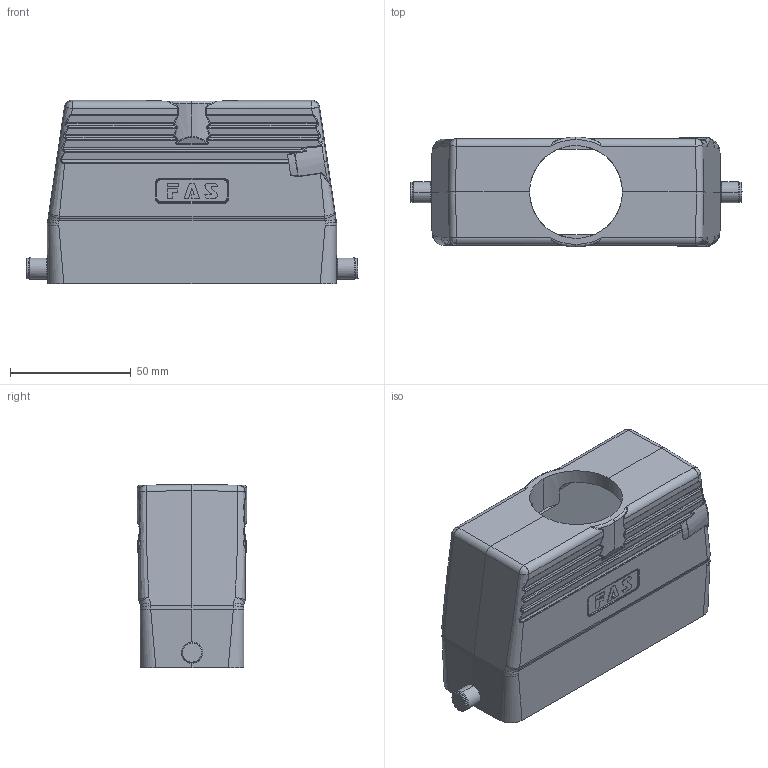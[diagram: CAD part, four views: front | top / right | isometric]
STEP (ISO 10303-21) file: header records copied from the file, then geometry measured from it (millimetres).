
FILE_DESCRIPTION (( 'STEP AP203' ), '1' );
FILE_NAME ('H24B-TGH-RO-M25&M32&M40.STEP', '2021-01-18T05:59:17', ( '' ), ( '' ), 'SwSTEP 2.0', 'SolidWorks 2016', '' );
FILE_SCHEMA (( 'CONFIG_CONTROL_DESIGN' ));
Length unit declared in the file: millimetre
Products named in the file (3): H24B-TGH-RO-M40; H24B-TGH-RO-M25&M32&M40; H24B-RO-坶踡璃
Assembly tree (3 placements, depth 2):
  H24B-TGH-RO-M25&M32&M40
    H24B-RO-坶踡璃  x2
    H24B-TGH-RO-M40
Bounding box: 137.69 x 45.5 x 76 mm (x, y, z)
Volume: 108112 mm3; surface area: 52279 mm2
Topology: 3 solids, 3 shells, 663 faces, 1594 edges, 963 vertices
Faces by surface type: bspline 224, cylinder 219, plane 157, cone 63
Entity records: 28968 total; most frequent: CARTESIAN_POINT 16086, ORIENTED_EDGE 3062, DIRECTION 1991, EDGE_CURVE 1531, VERTEX_POINT 925, AXIS2_PLACEMENT_3D 723, EDGE_LOOP 656, FACE_OUTER_BOUND 632
